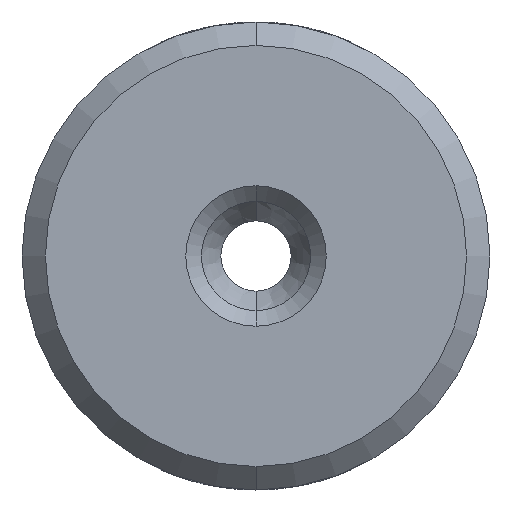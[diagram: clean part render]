
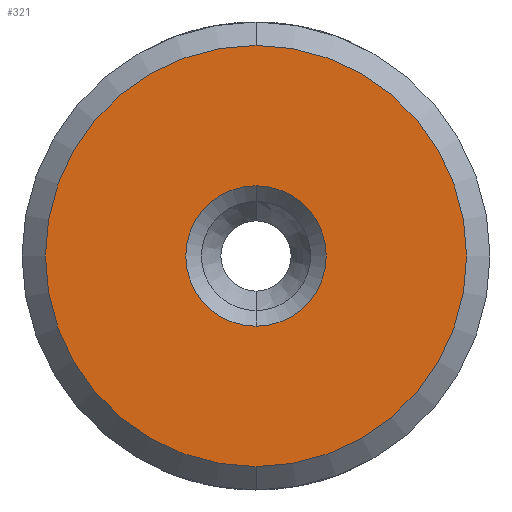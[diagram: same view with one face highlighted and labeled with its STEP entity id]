
A CAD part, front view. The second image highlights one B-rep face of the part: STEP entity #321.
In plain terms, the highlighted planar face has unit normal (0, -1, 0).
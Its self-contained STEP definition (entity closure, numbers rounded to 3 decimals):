
#3 = AXIS2_PLACEMENT_3D ( 'NONE', #862, #642, #789 ) ;
#46 = AXIS2_PLACEMENT_3D ( 'NONE', #995, #529, #759 ) ;
#53 = CARTESIAN_POINT ( 'NONE',  ( 0., 0., -0.9 ) ) ;
#56 = EDGE_LOOP ( 'NONE', ( #656, #184 ) ) ;
#99 = DIRECTION ( 'NONE',  ( 0., 0., 1. ) ) ;
#106 = CARTESIAN_POINT ( 'NONE',  ( 0., 0., -2.7 ) ) ;
#150 = DIRECTION ( 'NONE',  ( 0., 1., 0. ) ) ;
#184 = ORIENTED_EDGE ( 'NONE', *, *, #421, .T. ) ;
#195 = EDGE_CURVE ( 'NONE', #1206, #1130, #1378, .T. ) ;
#211 = CARTESIAN_POINT ( 'NONE',  ( 0., 0., -0.7 ) ) ;
#226 = CARTESIAN_POINT ( 'NONE',  ( 0., 0., 0.9 ) ) ;
#259 = CARTESIAN_POINT ( 'NONE',  ( 0., 0., 0. ) ) ;
#321 = ADVANCED_FACE ( 'NONE', ( #868, #1064 ), #1123, .F. ) ;
#346 = EDGE_LOOP ( 'NONE', ( #873, #1385 ) ) ;
#356 = CIRCLE ( 'NONE', #3, 0.9 ) ;
#395 = VERTEX_POINT ( 'NONE', #226 ) ;
#421 = EDGE_CURVE ( 'NONE', #395, #935, #624, .T. ) ;
#469 = AXIS2_PLACEMENT_3D ( 'NONE', #211, #884, #99 ) ;
#529 = DIRECTION ( 'NONE',  ( 0., -1., 0. ) ) ;
#598 = DIRECTION ( 'NONE',  ( 0., 0., 1. ) ) ;
#607 = DIRECTION ( 'NONE',  ( 0., 0., 1. ) ) ;
#624 = CIRCLE ( 'NONE', #1184, 0.9 ) ;
#642 = DIRECTION ( 'NONE',  ( 0., 1., 0. ) ) ;
#656 = ORIENTED_EDGE ( 'NONE', *, *, #946, .T. ) ;
#688 = CIRCLE ( 'NONE', #721, 2.7 ) ;
#721 = AXIS2_PLACEMENT_3D ( 'NONE', #929, #1057, #598 ) ;
#759 = DIRECTION ( 'NONE',  ( 0., 0., 1. ) ) ;
#789 = DIRECTION ( 'NONE',  ( 0., 0., 1. ) ) ;
#862 = CARTESIAN_POINT ( 'NONE',  ( 0., 0., 0. ) ) ;
#868 = FACE_OUTER_BOUND ( 'NONE', #346, .T. ) ;
#873 = ORIENTED_EDGE ( 'NONE', *, *, #1371, .T. ) ;
#884 = DIRECTION ( 'NONE',  ( 0., 1., 0. ) ) ;
#929 = CARTESIAN_POINT ( 'NONE',  ( 0., 0., 0. ) ) ;
#935 = VERTEX_POINT ( 'NONE', #53 ) ;
#946 = EDGE_CURVE ( 'NONE', #935, #395, #356, .T. ) ;
#995 = CARTESIAN_POINT ( 'NONE',  ( 0., 0., 0. ) ) ;
#1057 = DIRECTION ( 'NONE',  ( 0., -1., 0. ) ) ;
#1064 = FACE_BOUND ( 'NONE', #56, .T. ) ;
#1096 = CARTESIAN_POINT ( 'NONE',  ( 0., 0., 2.7 ) ) ;
#1123 = PLANE ( 'NONE',  #469 ) ;
#1130 = VERTEX_POINT ( 'NONE', #1096 ) ;
#1184 = AXIS2_PLACEMENT_3D ( 'NONE', #259, #150, #607 ) ;
#1206 = VERTEX_POINT ( 'NONE', #106 ) ;
#1371 = EDGE_CURVE ( 'NONE', #1130, #1206, #688, .T. ) ;
#1378 = CIRCLE ( 'NONE', #46, 2.7 ) ;
#1385 = ORIENTED_EDGE ( 'NONE', *, *, #195, .T. ) ;
